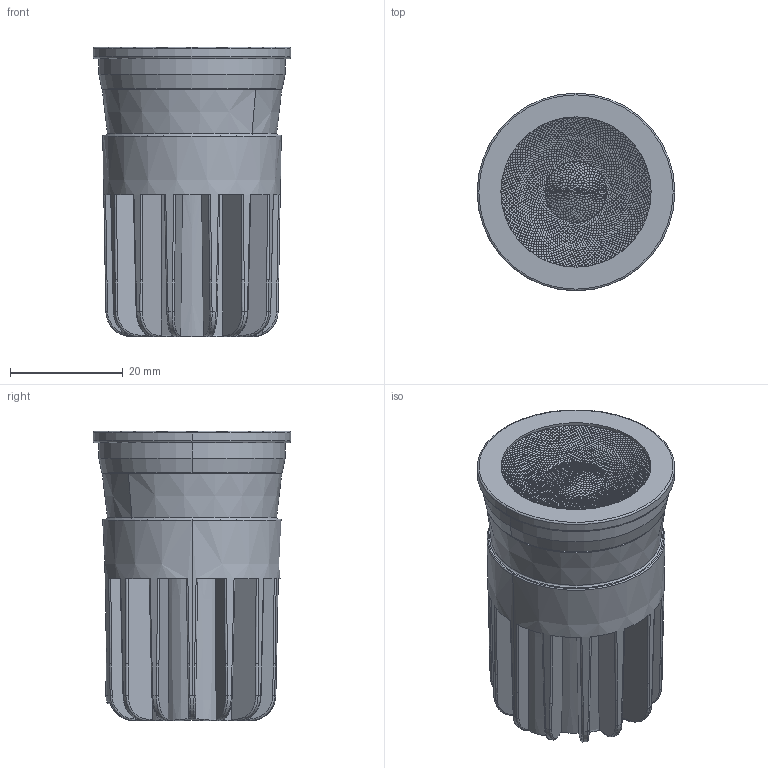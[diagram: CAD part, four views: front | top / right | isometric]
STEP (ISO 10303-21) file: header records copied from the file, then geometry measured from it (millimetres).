
FILE_DESCRIPTION((''),'2;1');
FILE_NAME('TC34052_ASM','2025-10-16T20:12:36',('Administrator'),(''),'CREO PARAMETRIC BY PTC INC, 2018100','CREO PARAMETRIC BY PTC INC, 2018100','');
FILE_SCHEMA(('CONFIG_CONTROL_DESIGN','SHAPE_APPEARANCE_LAYERS_GROUPS'));
Products named in the file (10): Y1133-2025-10-14; 1_07_54624-D24-12_5; PURUIV4; PTM2D5X5; AC-D29H15-15D-OUT-240424; QIANHUAN; HOUGAIBAN; YTM3X6_04; FANGUANGZHI; TC34052_ASM
Assembly tree (11 placements, depth 2):
  TC34052_ASM
    Y1133-2025-10-14
    1_07_54624-D24-12_5
    PURUIV4
    PTM2D5X5  x2
    AC-D29H15-15D-OUT-240424
    QIANHUAN
    HOUGAIBAN
    YTM3X6_04  x2
    FANGUANGZHI
Bounding box: 35 x 35 x 51.25 mm (x, y, z)
Volume: 22094.8 mm3; surface area: 21880.5 mm2
Topology: 11 solids, 11 shells, 4580 faces, 13226 edges, 8703 vertices
Faces by surface type: sphere 3369, plane 496, cylinder 322, extrusion 113, bspline 104, cone 102, torus 71, revolution 3
Entity records: 247684 total; most frequent: CARTESIAN_POINT 77848, ORIENTED_EDGE 26212, PRESENTATION_STYLE_ASSIGNMENT 17618, STYLED_ITEM 17609, CURVE_STYLE 13148, EDGE_CURVE 13106, DIRECTION 12470, B_SPLINE_CURVE_WITH_KNOTS 10709
